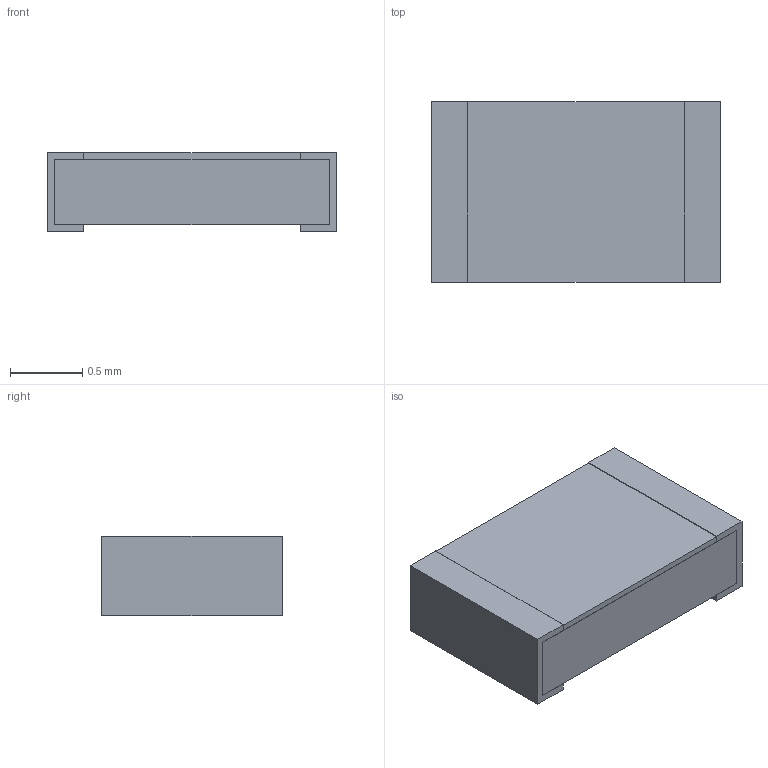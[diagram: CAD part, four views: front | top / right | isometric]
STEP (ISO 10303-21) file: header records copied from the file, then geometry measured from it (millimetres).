
FILE_DESCRIPTION(('STEP AP203'), '1');
FILE_NAME('Ð1-8 0805 ', '', ('UNSPECIFIED'), ('UNSPECIFIED'), 'ASCON STEP Converter 1.6', 'ASCON Math Kernel', '');
FILE_SCHEMA(('CONFIG_CONTROL_DESIGN'));
Length unit declared in the file: millimetre
Bounding box: 2 x 1.25 x 0.55 mm (x, y, z)
Volume: 1.3 mm3; surface area: 17.1 mm2
Topology: 4 solids, 5 shells, 51 faces, 123 edges, 82 vertices
Faces by surface type: plane 47, cylinder 4
Entity records: 1937 total; most frequent: CARTESIAN_POINT 257, ORIENTED_EDGE 246, DIRECTION 235, EDGE_CURVE 123, LINE 115, VECTOR 115, VERTEX_POINT 82, AXIS2_PLACEMENT_3D 60
